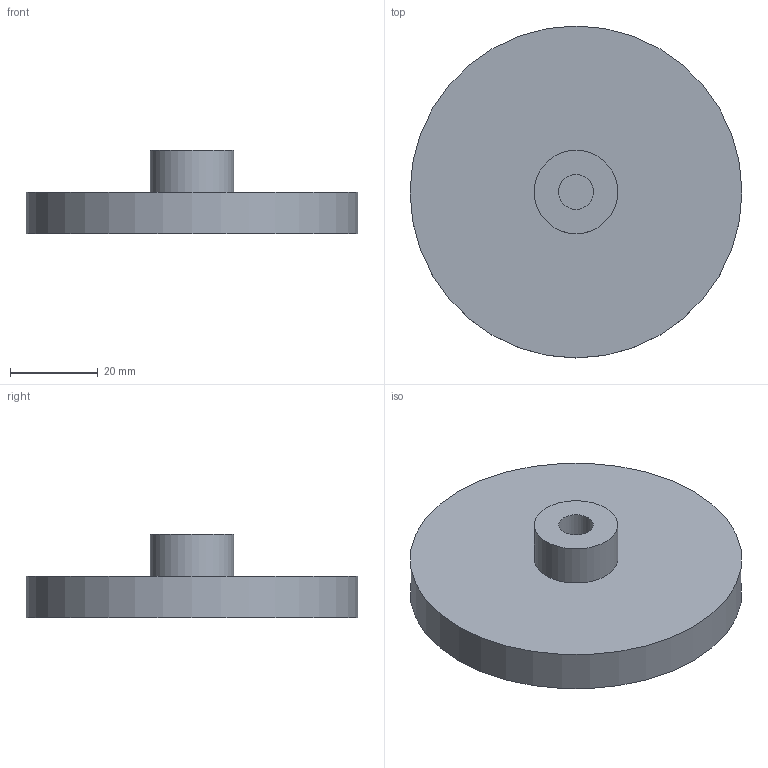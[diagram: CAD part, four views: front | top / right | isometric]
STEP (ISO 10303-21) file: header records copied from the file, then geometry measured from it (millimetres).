
FILE_DESCRIPTION((''),'2;1');
FILE_NAME('F:\CAD files\Itr\3D MARKETING MODELS\GRIPS\G1009-1\G1009-1.stp','2017-04-20T13:54:51',('mlampen'),(''),'Autodesk Inventor 2010','Autodesk Inventor 2010','');
FILE_SCHEMA(('AUTOMOTIVE_DESIGN { 1 0 10303 214 1 1 1 1 }'));
Length unit declared in the file: inch
Products named in the file (1): Part2
Bounding box: 75.69 x 75.69 x 19.05 mm (x, y, z)
Volume: 44883.8 mm3; surface area: 12182.9 mm2
Topology: 1 solids, 1 shells, 7 faces, 9 edges, 6 vertices
Faces by surface type: plane 4, cylinder 3
Full cylindrical faces by diameter (mm): 7.938 x1, 19.05 x1, 75.692 x1
Entity records: 162 total; most frequent: DIRECTION 28, CARTESIAN_POINT 20, AXIS2_PLACEMENT_3D 14, ORIENTED_EDGE 12, EDGE_LOOP 12, FACE_OUTER_BOUND 7, ADVANCED_FACE 7, VERTEX_POINT 6
